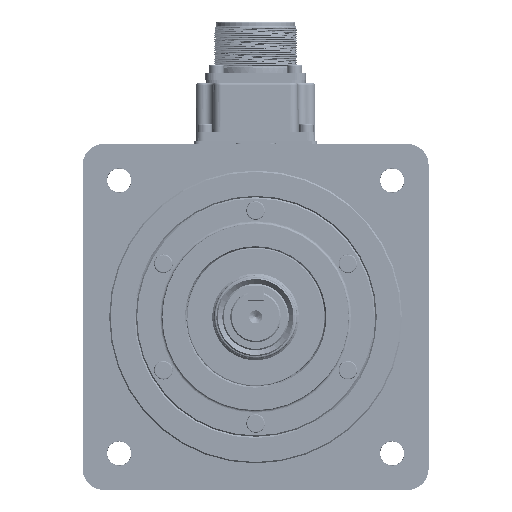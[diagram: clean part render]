
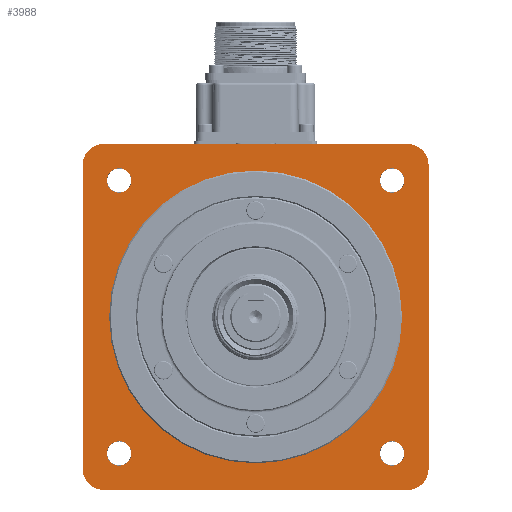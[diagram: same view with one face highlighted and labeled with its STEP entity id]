
A CAD part, front view. The second image highlights one B-rep face of the part: STEP entity #3988.
In plain terms, the highlighted planar face has unit normal (0, -1, 0).
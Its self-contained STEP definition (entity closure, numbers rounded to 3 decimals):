
#3988 = ADVANCED_FACE( '', ( #9931, #9932, #9933, #9934, #9935, #9936 ), #9937, .F. );
#9931 = FACE_BOUND( '', #22030, .T. );
#9932 = FACE_OUTER_BOUND( '', #22031, .T. );
#9933 = FACE_BOUND( '', #22032, .T. );
#9934 = FACE_BOUND( '', #22033, .T. );
#9935 = FACE_BOUND( '', #22034, .T. );
#9936 = FACE_BOUND( '', #22035, .T. );
#9937 = PLANE( '', #22036 );
#22030 = EDGE_LOOP( '', ( #44983 ) );
#22031 = EDGE_LOOP( '', ( #44984, #44985, #44986, #44987, #44988, #44989, #44990, #44991 ) );
#22032 = EDGE_LOOP( '', ( #44992 ) );
#22033 = EDGE_LOOP( '', ( #44993 ) );
#22034 = EDGE_LOOP( '', ( #44994 ) );
#22035 = EDGE_LOOP( '', ( #44995 ) );
#22036 = AXIS2_PLACEMENT_3D( '', #44996, #44997, #44998 );
#44983 = ORIENTED_EDGE( '', *, *, #65192, .F. );
#44984 = ORIENTED_EDGE( '', *, *, #65328, .F. );
#44985 = ORIENTED_EDGE( '', *, *, #65329, .T. );
#44986 = ORIENTED_EDGE( '', *, *, #65330, .F. );
#44987 = ORIENTED_EDGE( '', *, *, #65331, .T. );
#44988 = ORIENTED_EDGE( '', *, *, #65332, .F. );
#44989 = ORIENTED_EDGE( '', *, *, #65333, .T. );
#44990 = ORIENTED_EDGE( '', *, *, #62801, .F. );
#44991 = ORIENTED_EDGE( '', *, *, #65334, .T. );
#44992 = ORIENTED_EDGE( '', *, *, #65335, .F. );
#44993 = ORIENTED_EDGE( '', *, *, #65336, .F. );
#44994 = ORIENTED_EDGE( '', *, *, #65337, .F. );
#44995 = ORIENTED_EDGE( '', *, *, #65338, .F. );
#44996 = CARTESIAN_POINT( '', ( 0., -32.9, 55. ) );
#44997 = DIRECTION( '', ( 0., 1., 0. ) );
#44998 = DIRECTION( '', ( 0., 0., 1. ) );
#62801 = EDGE_CURVE( '', #72845, #72848, #72849, .F. );
#65192 = EDGE_CURVE( '', #76809, #76809, #76810, .T. );
#65328 = EDGE_CURVE( '', #77008, #77009, #77010, .F. );
#65329 = EDGE_CURVE( '', #77008, #77011, #77012, .T. );
#65330 = EDGE_CURVE( '', #77013, #77011, #77014, .F. );
#65331 = EDGE_CURVE( '', #77013, #77015, #77016, .T. );
#65332 = EDGE_CURVE( '', #77017, #77015, #77018, .F. );
#65333 = EDGE_CURVE( '', #77017, #72848, #77019, .T. );
#65334 = EDGE_CURVE( '', #72845, #77009, #77020, .T. );
#65335 = EDGE_CURVE( '', #77021, #77021, #77022, .F. );
#65336 = EDGE_CURVE( '', #77023, #77023, #77024, .F. );
#65337 = EDGE_CURVE( '', #77025, #77025, #77026, .F. );
#65338 = EDGE_CURVE( '', #77027, #77027, #77028, .F. );
#72845 = VERTEX_POINT( '', #89446 );
#72848 = VERTEX_POINT( '', #89450 );
#72849 = CIRCLE( '', #89451, 8. );
#76809 = VERTEX_POINT( '', #97892 );
#76810 = CIRCLE( '', #97893, 55. );
#77008 = VERTEX_POINT( '', #99610 );
#77009 = VERTEX_POINT( '', #99611 );
#77010 = CIRCLE( '', #99612, 8. );
#77011 = VERTEX_POINT( '', #99613 );
#77012 = LINE( '', #99614, #99615 );
#77013 = VERTEX_POINT( '', #99616 );
#77014 = CIRCLE( '', #99617, 8. );
#77015 = VERTEX_POINT( '', #99618 );
#77016 = LINE( '', #99619, #99620 );
#77017 = VERTEX_POINT( '', #99621 );
#77018 = CIRCLE( '', #99622, 8. );
#77019 = LINE( '', #99623, #99624 );
#77020 = LINE( '', #99625, #99626 );
#77021 = VERTEX_POINT( '', #99627 );
#77022 = CIRCLE( '', #99628, 4.6 );
#77023 = VERTEX_POINT( '', #99629 );
#77024 = CIRCLE( '', #99630, 4.6 );
#77025 = VERTEX_POINT( '', #99631 );
#77026 = CIRCLE( '', #99632, 4.6 );
#77027 = VERTEX_POINT( '', #99633 );
#77028 = CIRCLE( '', #99634, 4.6 );
#89446 = CARTESIAN_POINT( '', ( 57., -32.9, 65. ) );
#89450 = CARTESIAN_POINT( '', ( 65., -32.9, 57. ) );
#89451 = AXIS2_PLACEMENT_3D( '', #116808, #116809, #116810 );
#97892 = CARTESIAN_POINT( '', ( 0., -32.9, -55. ) );
#97893 = AXIS2_PLACEMENT_3D( '', #119531, #119532, #119533 );
#99610 = CARTESIAN_POINT( '', ( -65., -32.9, 57. ) );
#99611 = CARTESIAN_POINT( '', ( -57., -32.9, 65. ) );
#99612 = AXIS2_PLACEMENT_3D( '', #119675, #119676, #119677 );
#99613 = CARTESIAN_POINT( '', ( -65., -32.9, -57. ) );
#99614 = CARTESIAN_POINT( '', ( -65., -32.9, 65. ) );
#99615 = VECTOR( '', #119678, 1000. );
#99616 = CARTESIAN_POINT( '', ( -57., -32.9, -65. ) );
#99617 = AXIS2_PLACEMENT_3D( '', #119679, #119680, #119681 );
#99618 = CARTESIAN_POINT( '', ( 57., -32.9, -65. ) );
#99619 = CARTESIAN_POINT( '', ( -65., -32.9, -65. ) );
#99620 = VECTOR( '', #119682, 1000. );
#99621 = CARTESIAN_POINT( '', ( 65., -32.9, -57. ) );
#99622 = AXIS2_PLACEMENT_3D( '', #119683, #119684, #119685 );
#99623 = CARTESIAN_POINT( '', ( 65., -32.9, -65. ) );
#99624 = VECTOR( '', #119686, 1000. );
#99625 = CARTESIAN_POINT( '', ( 65., -32.9, 65. ) );
#99626 = VECTOR( '', #119687, 1000. );
#99627 = CARTESIAN_POINT( '', ( -51.265, -32.9, 55.866 ) );
#99628 = AXIS2_PLACEMENT_3D( '', #119688, #119689, #119690 );
#99629 = CARTESIAN_POINT( '', ( -51.265, -32.9, -46.665 ) );
#99630 = AXIS2_PLACEMENT_3D( '', #119691, #119692, #119693 );
#99631 = CARTESIAN_POINT( '', ( 51.265, -32.9, -46.665 ) );
#99632 = AXIS2_PLACEMENT_3D( '', #119694, #119695, #119696 );
#99633 = CARTESIAN_POINT( '', ( 51.265, -32.9, 55.866 ) );
#99634 = AXIS2_PLACEMENT_3D( '', #119697, #119698, #119699 );
#116808 = CARTESIAN_POINT( '', ( 57., -32.9, 57. ) );
#116809 = DIRECTION( '', ( 0., -1., 0. ) );
#116810 = DIRECTION( '', ( 0., 0., -1. ) );
#119531 = CARTESIAN_POINT( '', ( 0., -32.9, 0. ) );
#119532 = DIRECTION( '', ( 0., -1., 0. ) );
#119533 = DIRECTION( '', ( 0., 0., -1. ) );
#119675 = CARTESIAN_POINT( '', ( -57., -32.9, 57. ) );
#119676 = DIRECTION( '', ( 0., -1., 0. ) );
#119677 = DIRECTION( '', ( 0., 0., -1. ) );
#119678 = DIRECTION( '', ( 0., 0., -1. ) );
#119679 = CARTESIAN_POINT( '', ( -57., -32.9, -57. ) );
#119680 = DIRECTION( '', ( 0., -1., 0. ) );
#119681 = DIRECTION( '', ( 0., 0., -1. ) );
#119682 = DIRECTION( '', ( 1., 0., 0. ) );
#119683 = CARTESIAN_POINT( '', ( 57., -32.9, -57. ) );
#119684 = DIRECTION( '', ( 0., -1., 0. ) );
#119685 = DIRECTION( '', ( 0., 0., -1. ) );
#119686 = DIRECTION( '', ( 0., 0., 1. ) );
#119687 = DIRECTION( '', ( -1., 0., 0. ) );
#119688 = CARTESIAN_POINT( '', ( -51.265, -32.9, 51.265 ) );
#119689 = DIRECTION( '', ( 0., 1., 0. ) );
#119690 = DIRECTION( '', ( 0., 0., 1. ) );
#119691 = CARTESIAN_POINT( '', ( -51.265, -32.9, -51.265 ) );
#119692 = DIRECTION( '', ( 0., 1., 0. ) );
#119693 = DIRECTION( '', ( 0., 0., 1. ) );
#119694 = CARTESIAN_POINT( '', ( 51.265, -32.9, -51.265 ) );
#119695 = DIRECTION( '', ( 0., 1., 0. ) );
#119696 = DIRECTION( '', ( 0., 0., 1. ) );
#119697 = CARTESIAN_POINT( '', ( 51.265, -32.9, 51.265 ) );
#119698 = DIRECTION( '', ( 0., 1., 0. ) );
#119699 = DIRECTION( '', ( 0., 0., 1. ) );
